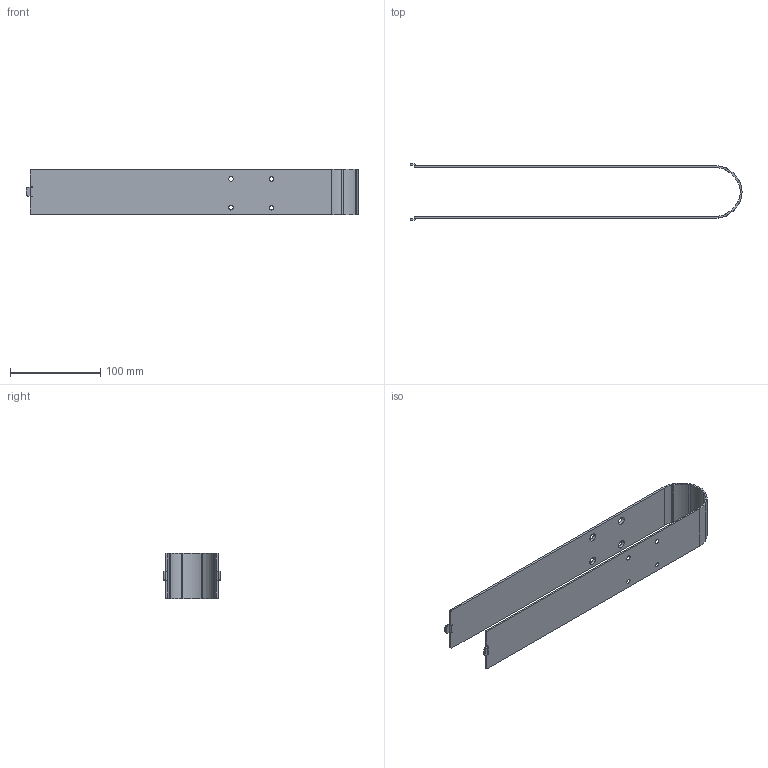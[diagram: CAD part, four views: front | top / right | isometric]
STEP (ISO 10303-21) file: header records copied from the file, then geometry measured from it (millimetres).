
FILE_DESCRIPTION((''),'2;1');
FILE_NAME('CMTS0069_GUIDING_26_1','2021-09-14T12:11:10',('Dabsch'),(''),'CREO PARAMETRIC BY PTC INC, 2016390','CREO PARAMETRIC BY PTC INC, 2016390','');
FILE_SCHEMA(('CONFIG_CONTROL_DESIGN'));
Length unit declared in the file: millimetre
Products named in the file (1): CMTS0069_GUIDING_26_1
Bounding box: 368.5 x 63 x 51 mm (x, y, z)
Volume: 76856.1 mm3; surface area: 80630.5 mm2
Topology: 1 solids, 1 shells, 130 faces, 332 edges, 204 vertices
Faces by surface type: plane 76, cylinder 38, cone 16
Entity records: 3994 total; most frequent: DIRECTION 736, CARTESIAN_POINT 666, ORIENTED_EDGE 664, EDGE_CURVE 332, AXIS2_PLACEMENT_3D 274, VERTEX_POINT 204, VECTOR 188, LINE 188
